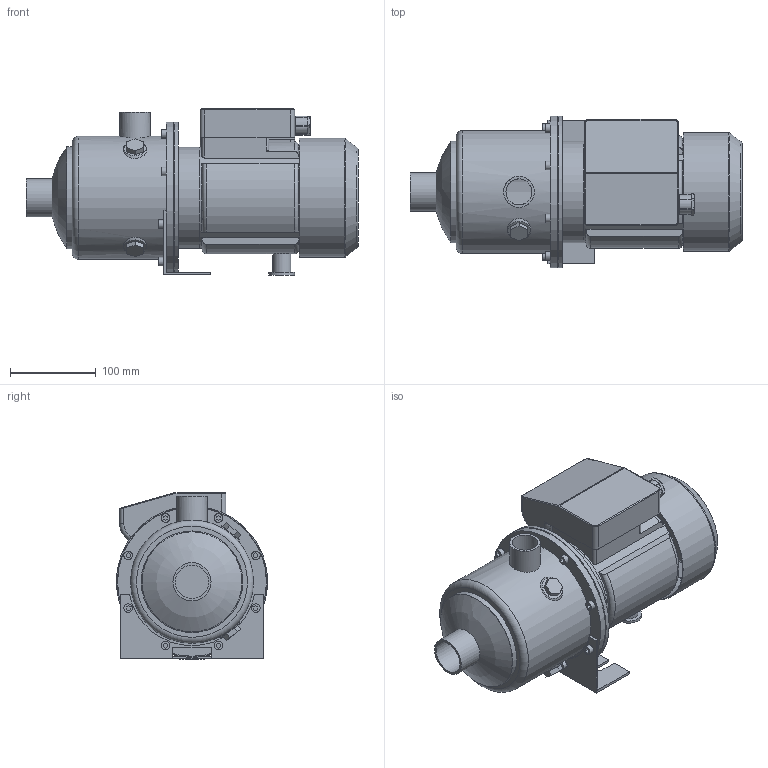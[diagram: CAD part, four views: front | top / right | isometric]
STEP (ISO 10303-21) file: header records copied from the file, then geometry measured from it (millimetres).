
FILE_DESCRIPTION(/* description */ ('Unknown'),/* implementation_level */ '2;1');
FILE_NAME(/* name */ 'MH 3 [4] M',/* time_stamp */ '2026-07-10T14:42:44+02:00',/* author */ ('Unknown'),/* organization */ ('Unknown'),/* preprocessor_version */ 'ST-DEVELOPER v20',/* originating_system */ 'Solid Edge',/* authorisation */ 'Unknown');
FILE_SCHEMA (('AUTOMOTIVE_DESIGN {1 0 10303 214 3 1 1}'));
Length unit declared in the file: millimetre
Products named in the file (10): MH 3 [4] M; Flangia motore Tonda M71; Corpo MH 3-5 [4]; Mot_Wendy_MEC71_055-075_M; carcassa MEC 71-M_Wendy; Copriventola MEC 71-Wendy; Basetta MEC 71 M-Wendy_new; 1; Piedino MEC 71 int.90; Staffa 3-5-9 int.90
Assembly tree (9 placements, depth 3):
  MH 3 [4] M
    Flangia motore Tonda M71
    Corpo MH 3-5 [4]
    Mot_Wendy_MEC71_055-075_M
      carcassa MEC 71-M_Wendy
      Copriventola MEC 71-Wendy
      Basetta MEC 71 M-Wendy_new
      1
    Piedino MEC 71 int.90
    Staffa 3-5-9 int.90
Bounding box: 387 x 176.5 x 193.5 mm (x, y, z)
Volume: 1720476.7 mm3; surface area: 505918.2 mm2
Topology: 8 solids, 8 shells, 287 faces, 674 edges, 445 vertices
Faces by surface type: plane 169, cylinder 81, torus 19, cone 14, sphere 2, bspline 2
Full cylindrical faces by diameter (mm): 7 x4, 10 x9, 12 x1, 15 x1, 16.5 x1, 21 x1, 30 x1, 30.291 x1, 36 x1, 38.952 x1, 44.5 x1, 110 x1, 114 x3, 116.1 x1, 118 x2, 118.5 x1, 136.5 x1, 138.5 x1, 141.1 x1, 143.5 x1, 173.5 x1, 174.1 x1, 176.5 x2
Entity records: 9252 total; most frequent: CARTESIAN_POINT 1708, DIRECTION 1328, ORIENTED_EDGE 1176, EDGE_CURVE 588, AXIS2_PLACEMENT_3D 491, VERTEX_POINT 415, EDGE_LOOP 395, FACE_BOUND 395
